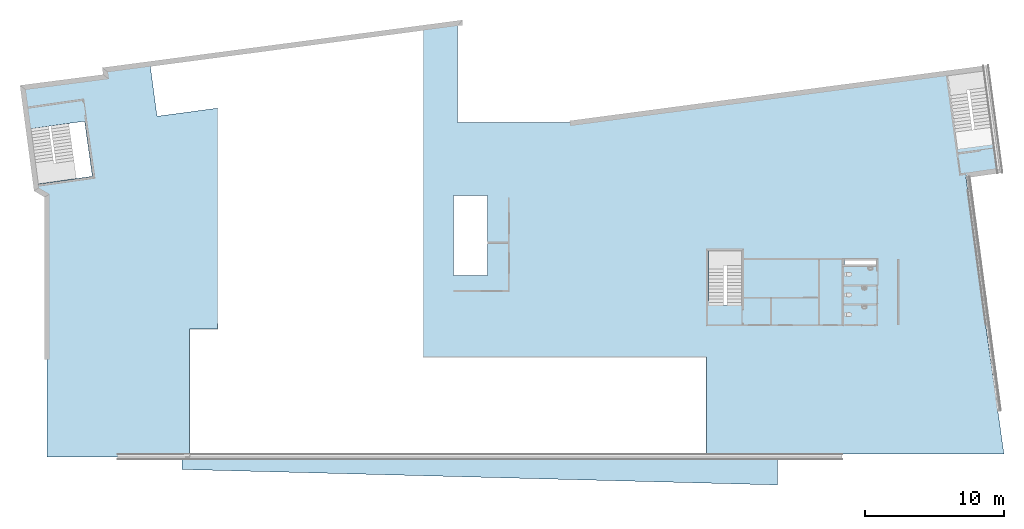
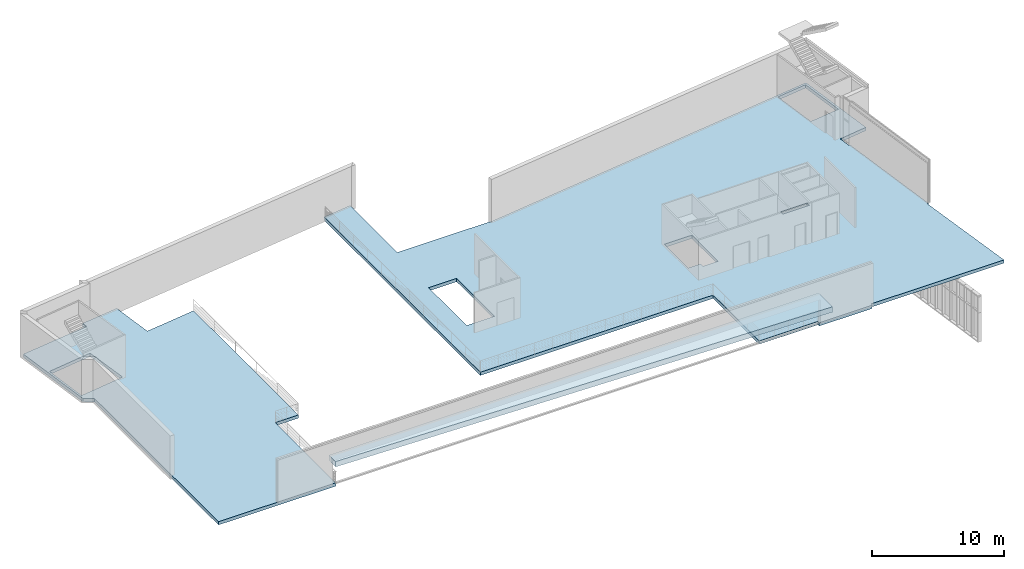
# One storey, part 4 of 17: 3 slabs, 5 openings.
"""IFC2X3 building model written with IfcOpenShell, lengths in metres."""

from ifc_helpers import new_model, entity, si_unit, converted_unit, money_unit, direction, frame, origin_with_axes, place, context, subcontext, project, spatial, polyline, outline, extrude, material, layer, layer_set, layer_usage, type_object, element, save


model = new_model("IFC2X3")

# Units and contexts
model_context = context("Model", 3, precision=1e-05, world=origin_with_axes(), true_north=direction((0.0, 1.0)))
body_context = subcontext(model_context, "Body", "Model", "MODEL_VIEW")
ifc_project = project(units=[si_unit("LENGTHUNIT", "METRE"), si_unit("AREAUNIT", "SQUARE_METRE"), si_unit("VOLUMEUNIT", "CUBIC_METRE"), converted_unit("PLANEANGLEUNIT", "DEGREE", entity("IfcPlaneAngleMeasure", 0.0174532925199), si_unit("PLANEANGLEUNIT", "RADIAN"), dimensions=[0, 0, 0, 0, 0, 0, 0]), si_unit("SOLIDANGLEUNIT", "STERADIAN"), money_unit("EUR"), converted_unit("TIMEUNIT", "Year", entity("IfcTimeMeasure", 31556926.0), si_unit("TIMEUNIT", "SECOND"), dimensions=[0, 0, 0, 0, 0, 0, 0]), si_unit("MASSUNIT", "GRAM"), si_unit("THERMODYNAMICTEMPERATUREUNIT", "DEGREE_CELSIUS"), si_unit("LUMINOUSINTENSITYUNIT", "LUMEN")], contexts=[model_context])

# Site, building, storey
site_placement = place(None, origin_with_axes())
site = spatial("IfcSite", under=ifc_project, at=site_placement, Name="Undefined", CompositionType="ELEMENT")
building_placement = place(site_placement, origin_with_axes())
building = spatial("IfcBuilding", under=site, at=building_placement, Name="Undefined", CompositionType="ELEMENT")
storey_placement = place(building_placement, frame((0.0, 0.0, 9.425), z_axis=(0.0, 0.0, 1.0), x_axis=(1.0, 0.0, 0.0)))
storey = spatial("IfcBuildingStorey", under=building, at=storey_placement, Name="Mezzannine", CompositionType="ELEMENT", Elevation=9.425)

# Slab
ifc_material_1 = material(Name="50 % 7150420")
ifc_layer_1 = layer(ifc_material_1, 0.5, ventilated="UNKNOWN")
ifc_layer_set_1 = layer_set([ifc_layer_1], Name="50 % 7150420 0.5")
ifc_layer_usage_1 = layer_usage(ifc_layer_set_1, "AXIS3", "NEGATIVE", 0.5)
slab_type_1 = type_object("IfcSlabType", Name="50 % 7150420 500", PredefinedType="FLOOR")
slab_1_placement = place(storey_placement, frame((9.49999982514, -1.09580833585, 2.7), z_axis=(0.0, 0.0, 1.0), x_axis=(1.0, 0.0, 0.0)))
element("IfcSlab", 1, at=slab_1_placement, inside=storey, type_object=slab_type_1, material=ifc_layer_usage_1, Name="SLA - 003", ObjectType="ROOF", PredefinedType="ROOF", context=body_context, shape_type="SweptSolid", body=[
    extrude(outline(polyline([(0.0, 0.0), (42.7250001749, -1.11216642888), (42.7250001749, 0.995808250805), (1.58901457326e-07, 0.995808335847), (0.0, 0.0)])), frame((0.0, 0.0, -0.5), z_axis=(0.0, 0.0, 1.0), x_axis=(1.0, 0.0, 0.0)), (0.0, 0.0, 1.0), 0.5),
])

# Slab, openings
ifc_material_2 = material(Name="Struct. - Chape")
ifc_layer_2 = layer(ifc_material_2, 0.06, ventilated="UNKNOWN")
ifc_material_3 = material(Name="Isolation Int. - Polyur\x8ethane")
ifc_layer_3 = layer(ifc_material_3, 0.06, ventilated="UNKNOWN")
ifc_material_4 = material(Name="Struct. - B.A. coul\x8e")
ifc_layer_4 = layer(ifc_material_4, 0.18, ventilated="UNKNOWN")
ifc_layer_set_2 = layer_set([ifc_layer_2, ifc_layer_3, ifc_layer_4], Name="5.0-Dalle & Chape (Simplifi\x8e)")
ifc_layer_usage_2 = layer_usage(ifc_layer_set_2, "AXIS3", "NEGATIVE", 0.3)
slab_type_2 = type_object("IfcSlabType", Name="200*30749", PredefinedType="NOTDEFINED")
slab_2_placement = place(storey_placement, frame((26.7849999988, 6.9699996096, 0.0), z_axis=(0.0, 0.0, 1.0), x_axis=(1.0, 0.0, 0.0)))
slab_2 = element("IfcSlab", 2, at=slab_2_placement, inside=storey, type_object=slab_type_2, material=ifc_layer_usage_2, Name="SLAB", ObjectType="200*30749", PredefinedType="FLOOR", context=body_context, shape_type="SweptSolid", body=[
    extrude(outline(polyline([(0.0, 0.0), (20.3150000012, 0.0), (20.3150000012, -6.9699996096), (25.439431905, -6.9699996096), (25.4400000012, -7.1649996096), (30.065, -7.1649996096), (30.065, -6.9699996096), (41.6737947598, -6.9699996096), (40.3566195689, 2.32997991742), (40.4676357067, 2.34479265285), (39.1829977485, 11.9726932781), (39.0723587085, 11.9554458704), (38.9302486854, 13.0201179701), (41.3695693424, 13.373752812), (40.3947519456, 20.7347927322), (10.5387270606, 16.7718467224), (10.5334474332, 16.8084133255), (2.465, 16.8070900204), (2.465, 23.9505563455), (0.0, 23.6216592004), (0.0, 0.0)])), frame((0.0, 0.0, -0.3), z_axis=(0.0, 0.0, 1.0), x_axis=(1.0, 0.0, 0.0)), (0.0, 0.0, 1.0), 0.3),
])
opening_1_placement = place(slab_2_placement, origin_with_axes())
element("IfcOpeningElement", 3, at=opening_1_placement, cuts=slab_2, Name="Slab Opening", context=body_context, shape_type="SweptSolid", body=[
    extrude(outline(polyline([(2.18876363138, 11.5950690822), (2.18876363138, 5.84506908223), (4.63376363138, 5.84506908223), (4.63376363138, 11.5950690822), (2.18876363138, 11.5950690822)])), frame((0.0, 0.0, -0.3), z_axis=(0.0, 0.0, 1.0), x_axis=(1.0, 0.0, 0.0)), (0.0, 0.0, 1.0), 0.3),
])
opening_2_placement = place(slab_2_placement, origin_with_axes())
element("IfcOpeningElement", 4, at=opening_2_placement, cuts=slab_2, Name="Slab Opening", context=body_context, shape_type="SweptSolid", body=[
    extrude(outline(polyline([(20.4800345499, 7.63996584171), (20.4800345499, 4.03141149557), (21.5682667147, 4.03141149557), (21.5682667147, 3.68141149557), (22.8749654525, 3.68141149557), (22.8749654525, 7.63996584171), (20.4800345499, 7.63996584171)])), frame((0.0, 0.0, -0.3), z_axis=(0.0, 0.0, 1.0), x_axis=(1.0, 0.0, 0.0)), (0.0, 0.0, 1.0), 0.3),
])
opening_3_placement = place(slab_2_placement, origin_with_axes())
element("IfcOpeningElement", 5, at=opening_3_placement, cuts=slab_2, Name="Slab Opening", context=body_context, shape_type="SweptSolid", body=[
    extrude(outline(polyline([(37.6248538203, 20.1702789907), (38.1640668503, 16.1359519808), (40.7670271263, 16.475396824), (40.2270547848, 20.5157678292), (37.6248538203, 20.1702789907)])), frame((0.0, 0.0, -0.3), z_axis=(0.0, 0.0, 1.0), x_axis=(1.0, 0.0, 0.0)), (0.0, 0.0, 1.0), 0.3),
])
opening_4_placement = place(slab_2_placement, origin_with_axes())
element("IfcOpeningElement", 6, at=opening_4_placement, cuts=slab_2, Name="Slab Opening", context=body_context, shape_type="SweptSolid", body=[
    extrude(outline(polyline([(32.5400000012, 6.9550003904), (30.2150000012, 6.9550003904), (30.2150000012, 6.6050003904), (32.5400000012, 6.6050003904), (32.5400000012, 6.9550003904)])), frame((0.0, 0.0, -0.3), z_axis=(0.0, 0.0, 1.0), x_axis=(1.0, 0.0, 0.0)), (0.0, 0.0, 1.0), 0.3),
])

# Slab, opening
ifc_layer_usage_3 = layer_usage(ifc_layer_set_2, "AXIS3", "NEGATIVE", 0.3)
slab_3_placement = place(storey_placement, frame((4.03354768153, 27.0832125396, 0.0), z_axis=(0.0, 0.0, 1.0), x_axis=(1.0, 0.0, 0.0)))
slab_3 = element("IfcSlab", 7, at=slab_3_placement, inside=storey, type_object=slab_type_2, material=ifc_layer_usage_3, Name="SLAB", ObjectType="200*30749", PredefinedType="FLOOR", context=body_context, shape_type="SweptSolid", body=[
    extrude(outline(polyline([(0.0, 0.0), (-5.96461318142, -0.777163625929), (-4.9889269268, -8.08956248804), (-4.22854768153, -8.54176597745), (-4.22649705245, -27.2782125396), (6.01231476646, -27.2782125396), (6.01231444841, -18.1110715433), (8.02355947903, -18.1132186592), (8.04645464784, -2.25733320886), (3.66937032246, -2.84136055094), (3.16792097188, 0.918064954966), (-0.065350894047, 0.489779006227), (0.0, 0.0)])), frame((0.0, 0.0, -0.3), z_axis=(0.0, 0.0, 1.0), x_axis=(1.0, 0.0, 0.0)), (0.0, 0.0, 1.0), 0.3),
])
opening_5_placement = place(slab_3_placement, origin_with_axes())
element("IfcOpeningElement", 8, at=opening_5_placement, cuts=slab_3, Name="Slab Opening", context=body_context, shape_type="SweptSolid", body=[
    extrude(outline(polyline([(-5.37915560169, -3.74575795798), (-4.8715797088, -7.69912760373), (-0.975601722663, -7.14652252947), (-1.5306203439, -3.19736319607), (-5.37915560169, -3.74575795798)])), frame((0.0, 0.0, -0.3), z_axis=(0.0, 0.0, 1.0), x_axis=(1.0, 0.0, 0.0)), (0.0, 0.0, 1.0), 0.3),
])

save(model, "model.ifc")
